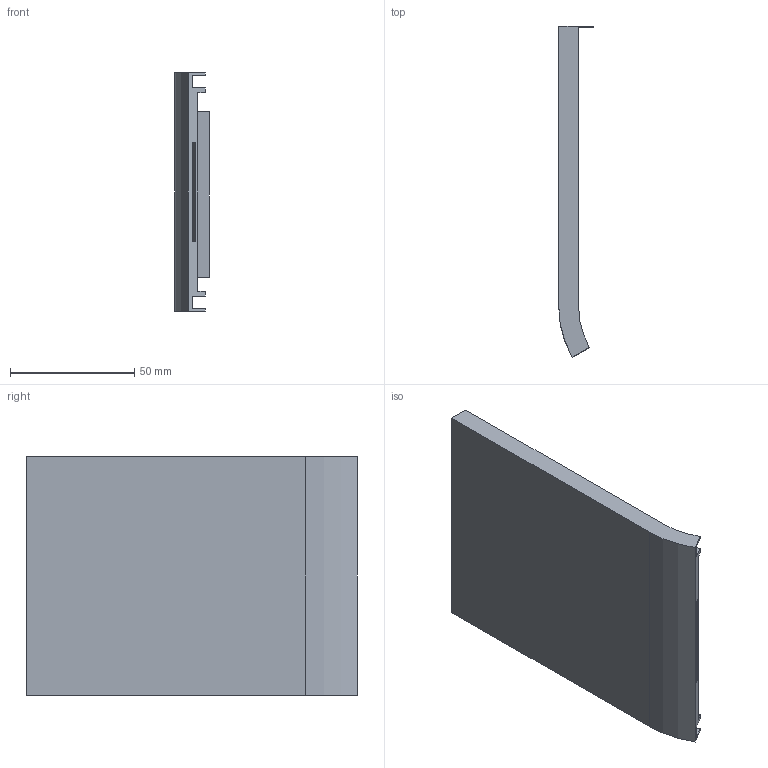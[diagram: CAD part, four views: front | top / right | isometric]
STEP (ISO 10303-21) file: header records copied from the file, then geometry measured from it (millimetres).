
FILE_DESCRIPTION(('STEP AP203'), '1');
FILE_NAME('ðåçîíàòîð 4', '', ('UNSPECIFIED'), ('UNSPECIFIED'), 'ASCON STEP Converter 1.3', 'ASCON Math Kernel', '');
FILE_SCHEMA(('CONFIG_CONTROL_DESIGN'));
Length unit declared in the file: millimetre
Bounding box: 14 x 133.35 x 96 mm (x, y, z)
Volume: 49219.3 mm3; surface area: 44786.3 mm2
Topology: 1 solids, 1 shells, 36 faces, 102 edges, 68 vertices
Faces by surface type: plane 26, cylinder 10
Entity records: 1502 total; most frequent: CARTESIAN_POINT 207, ORIENTED_EDGE 204, DIRECTION 196, EDGE_CURVE 102, LINE 82, VECTOR 82, VERTEX_POINT 68, AXIS2_PLACEMENT_3D 57
